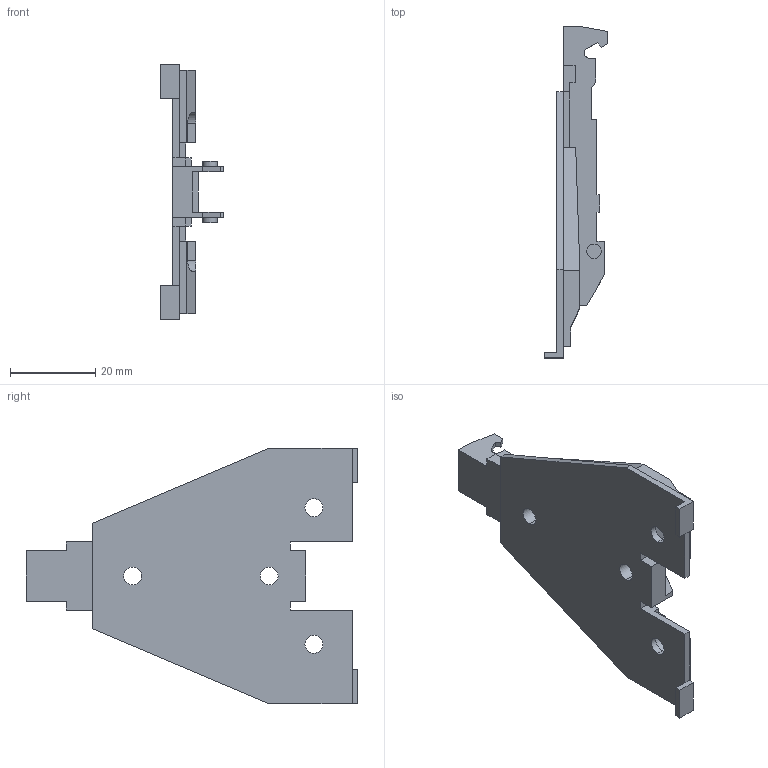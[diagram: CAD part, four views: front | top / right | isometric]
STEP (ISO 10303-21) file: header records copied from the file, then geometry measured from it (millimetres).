
FILE_DESCRIPTION (( 'STEP AP214' ), '1' );
FILE_NAME ('1D Deltamontageplatte Spax_H1,5.step', '2010-11-18T09:42:05', ( 'grass' ), ( '' ), 'SwSTEP 2.0', 'SolidWorks 2010', '' );
FILE_SCHEMA (( 'AUTOMOTIVE_DESIGN' ));
Length unit declared in the file: millimetre
Products named in the file (1): 1D Deltamontageplatte Spax_H1,5
Bounding box: 15 x 77.75 x 60 mm (x, y, z)
Volume: 12050.5 mm3; surface area: 8934.4 mm2
Topology: 1 solids, 1 shells, 127 faces, 367 edges, 244 vertices
Faces by surface type: plane 108, cylinder 19
Entity records: 4172 total; most frequent: CARTESIAN_POINT 748, ORIENTED_EDGE 734, DIRECTION 657, EDGE_CURVE 367, VECTOR 327, LINE 327, VERTEX_POINT 244, AXIS2_PLACEMENT_3D 165
